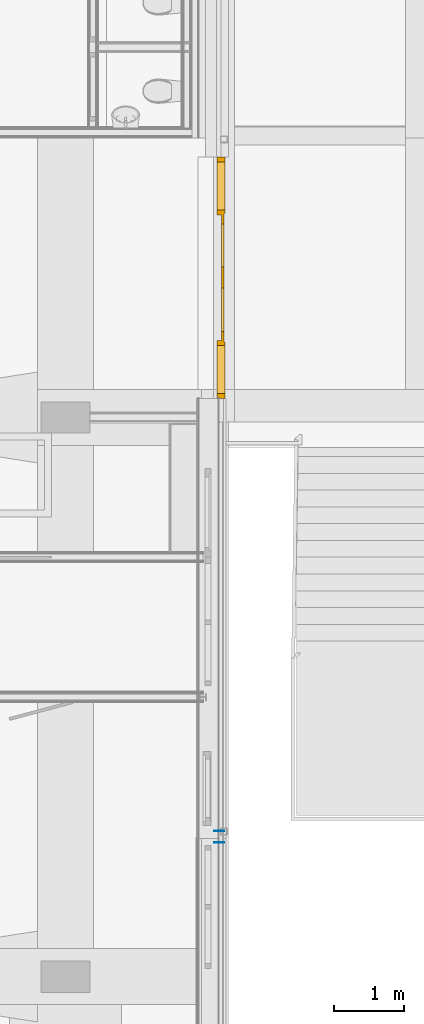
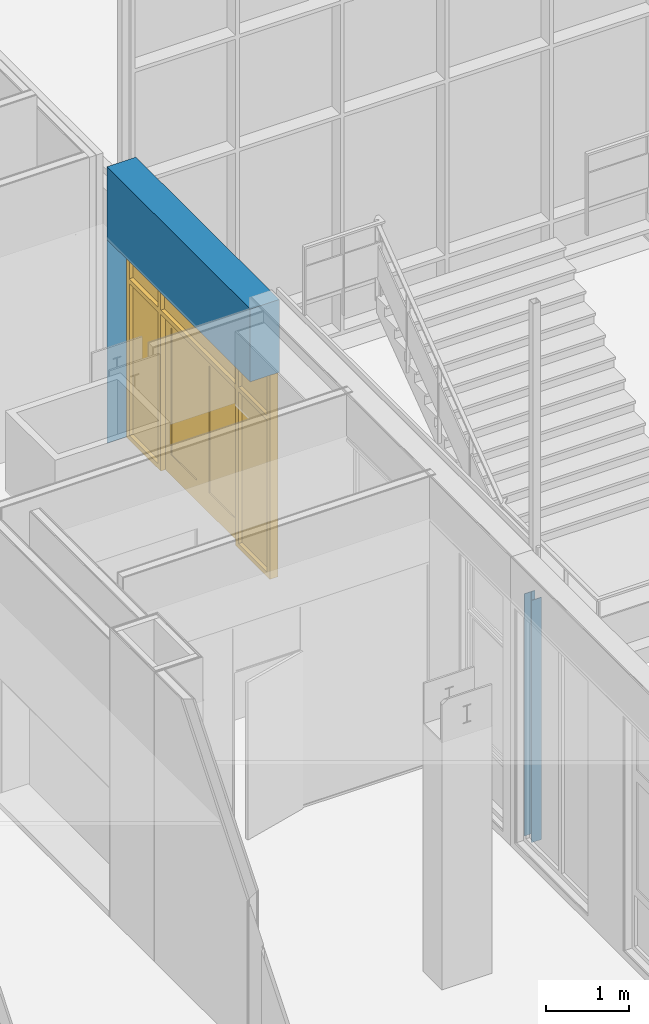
# One storey, part 23 of 94: 3 walls, 1 door, 1 opening.
"""IFC2X3 building model written with IfcOpenShell, lengths in millimetres."""

from ifc_helpers import new_model, entity, si_unit, converted_unit, derived_unit, money_unit, direction, frame, origin_with_axes, place, context, subcontext, project, spatial, open_shell, faceted_brep, surface_model, material, type_object, element, fill, save


model = new_model("IFC2X3")

# Units and contexts
model_context = context("Model", 3, precision=0.01, world=origin_with_axes(), true_north=direction((0.0, 1.0)))
body_context = subcontext(model_context, "Body", "Model", "MODEL_VIEW")
ifc_project = project(units=[si_unit("LENGTHUNIT", "METRE", prefix="MILLI"), si_unit("AREAUNIT", "SQUARE_METRE"), si_unit("VOLUMEUNIT", "CUBIC_METRE"), converted_unit("PLANEANGLEUNIT", "DEGREE", entity("IfcPlaneAngleMeasure", 0.0174532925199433), si_unit("PLANEANGLEUNIT", "RADIAN"), dimensions=[0, 0, 0, 0, 0, 0, 0]), money_unit("EUR"), converted_unit("TIMEUNIT", "Year", entity("IfcTimeMeasure", 31557600.0), si_unit("TIMEUNIT", "SECOND"), dimensions=[0, 0, 1, 0, 0, 0, 0]), si_unit("MASSUNIT", "GRAM", prefix="KILO"), si_unit("THERMODYNAMICTEMPERATUREUNIT", "DEGREE_CELSIUS"), si_unit("LUMINOUSINTENSITYUNIT", "LUMEN"), si_unit("ENERGYUNIT", "JOULE", prefix="MEGA"), derived_unit("THERMALCONDUCTANCEUNIT", [(si_unit("POWERUNIT", "WATT"), 1), (si_unit("LENGTHUNIT", "METRE"), -1), (si_unit("THERMODYNAMICTEMPERATUREUNIT", "KELVIN"), -1)]), derived_unit("SPECIFICHEATCAPACITYUNIT", [(si_unit("ENERGYUNIT", "JOULE"), 1), (si_unit("MASSUNIT", "GRAM", prefix="KILO"), -1), (si_unit("THERMODYNAMICTEMPERATUREUNIT", "KELVIN"), -1)]), derived_unit("MASSDENSITYUNIT", [(si_unit("MASSUNIT", "GRAM", prefix="KILO"), 1), (si_unit("VOLUMEUNIT", "CUBIC_METRE"), -1)])], contexts=[model_context])

# Site, building, storey
site_placement = place(None, origin_with_axes())
site = spatial("IfcSite", under=ifc_project, at=site_placement, Name="<site naam>", CompositionType="ELEMENT")
building_placement = place(site_placement, origin_with_axes())
building = spatial("IfcBuilding", under=site, at=building_placement, Name="<Naam gebouw>", CompositionType="ELEMENT")
storey_placement = place(building_placement, frame((0.0, 0.0, 4250.0), z_axis=(0.0, 0.0, 1.0), x_axis=(1.0, 0.0, 0.0)))
storey = spatial("IfcBuildingStorey", under=building, at=storey_placement, Name="01 1e verdieping", CompositionType="ELEMENT", Elevation=4250.0)

# Wall, opening, door
ifc_material_1 = material(Name="ALG - BUITENBLAD")
wall_type_1 = type_object("IfcWallType", Name="ALG - BUITENBLAD 404", PredefinedType="NOTDEFINED")
wall_1_placement = place(storey_placement, frame((4298.044439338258, 11725.39683091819, 0.0), z_axis=(0.0, 0.0, 1.0), x_axis=(0.0, -1.0, 0.0)))
wall_1 = element("IfcWall", 1, at=wall_1_placement, inside=storey, type_object=wall_type_1, material=ifc_material_1, Name="21_Binnenwand_ALG", context=body_context, shape_type="Brep", body=[
    faceted_brep([(0.0, 0.0, 3.000000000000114), (3450.234204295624, 0.0, 3.000000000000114), (3450.234204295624, -403.5000000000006, 3.000000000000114), (0.0, -403.5000000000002, 3.000000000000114), (3450.234204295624, 0.0, 4069.639117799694), (0.0, 0.0, 4069.639117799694), (3450.234204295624, -403.5000000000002, 4069.639117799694), (0.0, -403.4999999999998, 4069.639117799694)], [[[0, 1, 2, 3]], [[4, 1, 0, 5]], [[6, 2, 1, 4]], [[7, 3, 2, 6]], [[0, 3, 7, 5]], [[5, 7, 6, 4]]]),
])
opening_placement = place(wall_1_placement, frame((1725.234204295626, 0.0, 0.0), z_axis=(0.0, 0.0, 1.0), x_axis=(1.0, 0.0, 0.0)))
opening = element("IfcOpeningElement", 2, at=opening_placement, cuts=wall_1, Name="21_BI-D-06_305", context=body_context, shape_type="Brep", body=[
    faceted_brep([(-1724.999999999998, -17.99999999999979, 0.0), (-1724.999999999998, -17.99999999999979, 3000.0), (-1724.999999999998, 1.000000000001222, 3000.0), (-1724.999999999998, 1.000000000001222, 0.0), (-1724.999999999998, -404.5000000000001, 0.0), (-1724.999999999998, -404.5000000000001, 3000.0), (1724.999999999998, -18.00000000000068, 3000.0), (1724.999999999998, 1.000000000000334, 3000.0), (1724.999999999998, -404.5000000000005, 3000.0), (1724.999999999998, 1.000000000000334, 0.0), (1724.999999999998, -18.00000000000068, 0.0), (1724.999999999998, -404.500000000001, 0.0)], [[[0, 1, 2, 3]], [[1, 0, 4, 5]], [[6, 7, 2, 1, 5, 8]], [[7, 9, 3, 2]], [[0, 3, 9, 10, 11, 4]], [[5, 4, 11, 8]], [[6, 10, 9, 7]], [[10, 6, 8, 11]]]),
])
door_style = type_object("IfcDoorStyle", Name="D2 bl zl2 27", ConstructionType="NOTDEFINED", OperationType="USERDEFINED", ParameterTakesPrecedence=False, Sizeable=False)
door_placement = place(opening_placement, frame((-1724.999999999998, 0.0, 0.0), z_axis=(0.0, 0.0, 1.0), x_axis=(1.0, 0.0, 0.0)))
door = element("IfcDoor", 3, at=door_placement, inside=storey, type_object=door_style, Name="21_BI-D-06_305", ObjectType="DOOR", OverallHeight=3000.0, OverallWidth=3450.0, context=body_context, shape_type="SurfaceModel", body=[
    faceted_brep([(0.0, -18.00000000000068, 0.0), (67.00000000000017, -18.00000000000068, 0.0), (67.00000000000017, -132.0000000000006, 0.0), (0.0, -132.0000000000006, 0.0), (0.0, -17.99999999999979, 2933.0), (67.00000000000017, -17.99999999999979, 2933.0), (67.00000000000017, -17.99999999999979, 2367.0), (67.00000000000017, -17.99999999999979, 2300.0), (67.00000000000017, -18.00000000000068, 67.00000000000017), (67.00000000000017, -132.0000000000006, 67.00000000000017), (67.00000000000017, -132.0000000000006, 2300.0), (67.00000000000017, -132.0000000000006, 2367.0), (67.00000000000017, -132.0000000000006, 2933.0), (0.0, -132.0000000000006, 2933.0)], [[[0, 1, 2, 3]], [[0, 4, 5, 6, 7, 8, 1]], [[1, 8, 9, 2]], [[3, 2, 9, 10, 11, 12, 13]], [[4, 0, 3, 13]], [[5, 4, 13, 12]], [[6, 5, 12, 11]], [[7, 6, 11, 10]], [[8, 7, 10, 9]]]),
    faceted_brep([(824.9999999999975, -68.00000000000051, 2317.0), (824.9999999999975, -18.00000000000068, 2317.0), (824.9999999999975, -18.00000000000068, 2367.0), (824.9999999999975, -132.0000000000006, 2367.0), (824.9999999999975, -132.0000000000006, 2300.0), (824.9999999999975, -68.00000000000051, 2300.0), (807.9999999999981, -68.00000000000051, 2317.0), (807.9999999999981, -18.00000000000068, 2317.0), (807.9999999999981, -18.00000000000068, 0.0), (757.9999999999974, -18.00000000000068, 0.0), (757.9999999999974, -18.00000000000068, 67.00000000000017), (757.9999999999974, -18.00000000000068, 2300.0), (757.9999999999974, -18.00000000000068, 2367.0), (757.9999999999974, -18.00000000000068, 2933.0), (824.9999999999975, -18.00000000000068, 2933.0), (824.9999999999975, -132.0000000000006, 2933.0), (757.9999999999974, -132.0000000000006, 2933.0), (757.9999999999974, -132.0000000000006, 2367.0), (757.9999999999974, -132.0000000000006, 2300.0), (757.9999999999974, -132.0000000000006, 67.00000000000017), (757.9999999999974, -132.0000000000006, 0.0), (824.9999999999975, -132.0000000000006, 0.0), (824.9999999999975, -68.00000000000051, 0.0), (807.9999999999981, -68.00000000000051, 0.0)], [[[0, 1, 2, 3, 4, 5]], [[1, 0, 6, 7]], [[7, 8, 9, 10, 11, 12, 13, 14, 2, 1]], [[14, 15, 3, 2]], [[4, 3, 15, 16, 17, 18, 19, 20, 21]], [[22, 5, 4, 21]], [[0, 5, 22, 23, 6]], [[8, 7, 6, 23]], [[23, 22, 21, 20, 9, 8]], [[9, 20, 19, 10]], [[10, 19, 18, 11]], [[11, 18, 17, 12]], [[12, 17, 16, 13]], [[13, 16, 15, 14]]]),
    faceted_brep([(67.00000000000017, -18.00000000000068, 67.00000000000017), (67.00000000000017, -18.00000000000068, 0.0), (67.00000000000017, -132.0000000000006, 0.0), (67.00000000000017, -132.0000000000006, 67.00000000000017), (757.9999999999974, -18.00000000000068, 67.00000000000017), (757.9999999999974, -18.00000000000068, 0.0), (757.9999999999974, -132.0000000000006, 0.0), (757.9999999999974, -132.0000000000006, 67.00000000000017)], [[[0, 1, 2, 3]], [[0, 4, 5, 1]], [[1, 5, 6, 2]], [[3, 2, 6, 7]], [[4, 0, 3, 7]], [[5, 4, 7, 6]]]),
    faceted_brep([(3449.999999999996, -18.00000000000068, 0.0), (3449.999999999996, -18.00000000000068, 2933.0), (3449.999999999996, -132.0000000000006, 2933.0), (3449.999999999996, -132.0000000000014, 0.0), (3382.999999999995, -18.00000000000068, 0.0), (3382.999999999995, -18.00000000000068, 67.00000000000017), (3382.999999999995, -18.00000000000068, 2300.0), (3382.999999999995, -18.00000000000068, 2367.0), (3382.999999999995, -18.00000000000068, 2933.0), (3382.999999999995, -132.0000000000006, 2933.0), (3382.999999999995, -132.0000000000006, 2367.0), (3382.999999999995, -132.0000000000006, 2300.0), (3382.999999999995, -132.0000000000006, 67.00000000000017), (3382.999999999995, -132.0000000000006, 0.0)], [[[0, 1, 2, 3]], [[0, 4, 5, 6, 7, 8, 1]], [[1, 8, 9, 2]], [[3, 2, 9, 10, 11, 12, 13]], [[4, 0, 3, 13]], [[5, 4, 13, 12]], [[6, 5, 12, 11]], [[7, 6, 11, 10]], [[8, 7, 10, 9]]]),
    faceted_brep([(2641.999999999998, -18.00000000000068, 2317.0), (2624.999999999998, -18.00000000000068, 2317.0), (2624.999999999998, -18.00000000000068, 2367.0), (2624.999999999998, -18.00000000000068, 2933.0), (2691.999999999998, -18.00000000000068, 2933.0), (2691.999999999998, -18.00000000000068, 2367.0), (2691.999999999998, -18.00000000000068, 2300.0), (2691.999999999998, -18.00000000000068, 67.00000000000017), (2691.999999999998, -18.00000000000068, 0.0), (2641.999999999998, -18.00000000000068, 0.0), (2641.999999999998, -68.00000000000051, 2317.0), (2624.999999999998, -68.00000000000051, 2317.0), (2624.999999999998, -68.00000000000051, 2300.0), (2624.999999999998, -132.0000000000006, 2300.0), (2624.999999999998, -132.0000000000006, 2367.0), (2624.999999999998, -132.0000000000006, 2933.0), (2691.999999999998, -132.0000000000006, 2933.0), (2691.999999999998, -132.0000000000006, 2367.0), (2691.999999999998, -132.0000000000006, 2300.0), (2691.999999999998, -132.0000000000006, 67.00000000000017), (2691.999999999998, -132.0000000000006, 0.0), (2641.999999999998, -68.00000000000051, 0.0), (2624.999999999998, -132.0000000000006, 0.0), (2624.999999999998, -68.00000000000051, 0.0)], [[[0, 1, 2, 3, 4, 5, 6, 7, 8, 9]], [[1, 0, 10, 11]], [[11, 12, 13, 14, 2, 1]], [[2, 14, 15, 3]], [[3, 15, 16, 4]], [[4, 16, 17, 5]], [[5, 17, 18, 6]], [[6, 18, 19, 7]], [[7, 19, 20, 8]], [[21, 9, 8, 20, 22, 23]], [[0, 9, 21, 10]], [[21, 23, 12, 11, 10]], [[12, 23, 22, 13]], [[19, 18, 17, 16, 15, 14, 13, 22, 20]]]),
    faceted_brep([(2691.999999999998, -18.00000000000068, 67.00000000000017), (2691.999999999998, -18.00000000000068, 0.0), (2691.999999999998, -132.0000000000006, 0.0), (2691.999999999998, -132.0000000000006, 67.00000000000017), (3382.999999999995, -18.00000000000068, 67.00000000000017), (3382.999999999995, -18.00000000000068, 0.0), (3382.999999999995, -132.0000000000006, 0.0), (3382.999999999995, -132.0000000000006, 67.00000000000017)], [[[0, 1, 2, 3]], [[0, 4, 5, 1]], [[1, 5, 6, 2]], [[3, 2, 6, 7]], [[4, 0, 3, 7]], [[5, 4, 7, 6]]]),
    faceted_brep([(0.0, -17.99999999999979, 3000.0), (0.0, -17.99999999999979, 2933.0), (0.0, -132.0000000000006, 2933.0), (0.0, -132.0000000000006, 3000.0), (3449.999999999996, -18.00000000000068, 3000.0), (3449.999999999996, -18.00000000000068, 2933.0), (3382.999999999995, -18.00000000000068, 2933.0), (2691.999999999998, -18.00000000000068, 2933.0), (2624.999999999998, -18.00000000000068, 2933.0), (824.9999999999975, -18.00000000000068, 2933.0), (757.9999999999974, -18.00000000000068, 2933.0), (67.00000000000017, -17.99999999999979, 2933.0), (67.00000000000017, -132.0000000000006, 2933.0), (757.9999999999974, -132.0000000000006, 2933.0), (824.9999999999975, -132.0000000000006, 2933.0), (2624.999999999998, -132.0000000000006, 2933.0), (2691.999999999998, -132.0000000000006, 2933.0), (3382.999999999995, -132.0000000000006, 2933.0), (3449.999999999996, -132.0000000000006, 2933.0), (3449.999999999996, -132.0000000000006, 3000.0)], [[[0, 1, 2, 3]], [[0, 4, 5, 6, 7, 8, 9, 10, 11, 1]], [[1, 11, 12, 2]], [[3, 2, 12, 13, 14, 15, 16, 17, 18, 19]], [[4, 0, 3, 19]], [[5, 4, 19, 18]], [[6, 5, 18, 17]], [[7, 6, 17, 16]], [[8, 7, 16, 15]], [[9, 8, 15, 14]], [[10, 9, 14, 13]], [[11, 10, 13, 12]]]),
    faceted_brep([(67.00000000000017, -17.99999999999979, 2300.0), (757.9999999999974, -18.00000000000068, 2300.0), (757.9999999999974, -132.0000000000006, 2300.0), (67.00000000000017, -132.0000000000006, 2300.0), (67.00000000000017, -17.99999999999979, 2367.0), (757.9999999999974, -18.00000000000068, 2367.0), (757.9999999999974, -132.0000000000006, 2367.0), (67.00000000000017, -132.0000000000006, 2367.0)], [[[0, 1, 2, 3]], [[0, 4, 5, 1]], [[1, 5, 6, 2]], [[3, 2, 6, 7]], [[4, 0, 3, 7]], [[5, 4, 7, 6]]]),
    faceted_brep([(3382.999999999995, -18.00000000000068, 2367.0), (2691.999999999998, -18.00000000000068, 2367.0), (2691.999999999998, -132.0000000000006, 2367.0), (3382.999999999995, -132.0000000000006, 2367.0), (3382.999999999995, -18.00000000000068, 2300.0), (2691.999999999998, -18.00000000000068, 2300.0), (2691.999999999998, -132.0000000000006, 2300.0), (3382.999999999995, -132.0000000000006, 2300.0)], [[[0, 1, 2, 3]], [[0, 4, 5, 1]], [[1, 5, 6, 2]], [[3, 2, 6, 7]], [[4, 0, 3, 7]], [[5, 4, 7, 6]]]),
    faceted_brep([(2624.999999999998, -68.00000000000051, 2317.0), (2624.999999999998, -18.00000000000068, 2317.0), (2624.999999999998, -18.00000000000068, 2367.0), (2624.999999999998, -132.0000000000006, 2367.0), (2624.999999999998, -132.0000000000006, 2300.0), (2624.999999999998, -68.00000000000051, 2300.0), (824.9999999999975, -68.00000000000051, 2317.0), (824.9999999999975, -18.00000000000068, 2317.0), (824.9999999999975, -18.00000000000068, 2367.0), (824.9999999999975, -132.0000000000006, 2367.0), (824.9999999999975, -132.0000000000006, 2300.0), (824.9999999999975, -68.00000000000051, 2300.0)], [[[0, 1, 2, 3, 4, 5]], [[1, 0, 6, 7]], [[1, 7, 8, 2]], [[8, 9, 3, 2]], [[10, 4, 3, 9]], [[11, 5, 4, 10]], [[0, 5, 11, 6]], [[6, 11, 10, 9, 8, 7]]]),
    faceted_brep([(2641.999999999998, -28.00000000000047, 299.9999999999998), (2641.999999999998, -68.00000000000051, 299.9999999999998), (2491.999999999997, -68.00000000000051, 299.9999999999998), (2491.999999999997, -28.00000000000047, 299.9999999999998), (2641.999999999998, -28.00000000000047, 2167.0), (2641.999999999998, -68.00000000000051, 2167.0), (2491.999999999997, -68.00000000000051, 2167.0), (2491.999999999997, -28.00000000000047, 2167.0)], [[[0, 1, 2, 3]], [[4, 5, 1, 0]], [[1, 5, 6, 2]], [[3, 2, 6, 7]], [[0, 3, 7, 4]], [[7, 6, 5, 4]]]),
    faceted_brep([(1724.999999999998, -28.00000000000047, 299.9999999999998), (1724.999999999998, -68.00000000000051, 299.9999999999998), (1724.999999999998, -68.00000000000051, 2167.0), (1724.999999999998, -28.00000000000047, 2167.0), (1874.999999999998, -28.00000000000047, 299.9999999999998), (1874.999999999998, -68.00000000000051, 299.9999999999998), (1874.999999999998, -68.00000000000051, 2167.0), (1874.999999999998, -28.00000000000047, 2167.0)], [[[0, 1, 2, 3]], [[4, 5, 1, 0]], [[1, 5, 6, 2]], [[3, 2, 6, 7]], [[0, 3, 7, 4]], [[7, 6, 5, 4]]]),
    faceted_brep([(2641.999999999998, -28.00000000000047, 0.0), (2641.999999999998, -68.00000000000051, 0.0), (1724.999999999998, -68.00000000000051, 0.0), (1724.999999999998, -28.00000000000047, 0.0), (2641.999999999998, -28.00000000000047, 299.9999999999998), (2641.999999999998, -68.00000000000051, 299.9999999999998), (2491.999999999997, -68.00000000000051, 299.9999999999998), (1874.999999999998, -68.00000000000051, 299.9999999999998), (1724.999999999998, -68.00000000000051, 299.9999999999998), (1724.999999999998, -28.00000000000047, 299.9999999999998), (1874.999999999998, -28.00000000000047, 299.9999999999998), (2491.999999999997, -28.00000000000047, 299.9999999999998)], [[[0, 1, 2, 3]], [[4, 5, 1, 0]], [[1, 5, 6, 7, 8, 2]], [[3, 2, 8, 9]], [[0, 3, 9, 10, 11, 4]], [[11, 6, 5, 4]], [[10, 7, 6, 11]], [[9, 8, 7, 10]]]),
    faceted_brep([(2641.999999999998, -28.00000000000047, 2317.0), (2641.999999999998, -68.00000000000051, 2317.0), (2641.999999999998, -68.00000000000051, 2167.0), (2641.999999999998, -28.00000000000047, 2167.0), (1724.999999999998, -28.00000000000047, 2317.0), (1724.999999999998, -68.00000000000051, 2317.0), (1724.999999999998, -68.00000000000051, 2167.0), (1874.999999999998, -68.00000000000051, 2167.0), (2491.999999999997, -68.00000000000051, 2167.0), (2491.999999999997, -28.00000000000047, 2167.0), (1874.999999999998, -28.00000000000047, 2167.0), (1724.999999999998, -28.00000000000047, 2167.0)], [[[0, 1, 2, 3]], [[4, 5, 1, 0]], [[1, 5, 6, 7, 8, 2]], [[3, 2, 8, 9]], [[0, 3, 9, 10, 11, 4]], [[11, 6, 5, 4]], [[10, 7, 6, 11]], [[9, 8, 7, 10]]]),
    surface_model("IfcShellBasedSurfaceModel", [(2491.999999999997, -42.0000000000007, 299.9999999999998), (1874.999999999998, -42.0000000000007, 299.9999999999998), (1874.999999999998, -42.0000000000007, 2167.0), (2491.999999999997, -42.0000000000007, 2167.0)], [open_shell([[[0, 1, 2, 3]]])]),
    surface_model("IfcShellBasedSurfaceModel", [(2491.999999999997, -54.00000000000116, 299.9999999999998), (2491.999999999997, -54.00000000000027, 2167.0), (1874.999999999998, -54.00000000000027, 2167.0), (1874.999999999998, -54.00000000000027, 299.9999999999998)], [open_shell([[[0, 1, 2, 3]]])]),
    faceted_brep([(807.9999999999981, -28.00000000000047, 299.9999999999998), (957.9999999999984, -28.00000000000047, 299.9999999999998), (957.9999999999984, -68.00000000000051, 299.9999999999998), (807.9999999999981, -68.00000000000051, 299.9999999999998), (807.9999999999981, -28.00000000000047, 2167.0), (957.9999999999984, -28.00000000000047, 2167.0), (957.9999999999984, -68.00000000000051, 2167.0), (807.9999999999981, -68.00000000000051, 2167.0)], [[[0, 1, 2, 3]], [[0, 4, 5, 1]], [[1, 5, 6, 2]], [[3, 2, 6, 7]], [[4, 0, 3, 7]], [[5, 4, 7, 6]]]),
    faceted_brep([(1724.999999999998, -28.00000000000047, 299.9999999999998), (1724.999999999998, -28.00000000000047, 2167.0), (1724.999999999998, -68.00000000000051, 2167.0), (1724.999999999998, -68.00000000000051, 299.9999999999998), (1574.999999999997, -28.00000000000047, 299.9999999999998), (1574.999999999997, -28.00000000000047, 2167.0), (1574.999999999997, -68.00000000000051, 2167.0), (1574.999999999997, -68.00000000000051, 299.9999999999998)], [[[0, 1, 2, 3]], [[0, 4, 5, 1]], [[1, 5, 6, 2]], [[3, 2, 6, 7]], [[4, 0, 3, 7]], [[5, 4, 7, 6]]]),
    faceted_brep([(807.9999999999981, -28.00000000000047, 0.0), (1724.999999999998, -28.00000000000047, 0.0), (1724.999999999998, -68.00000000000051, 0.0), (807.9999999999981, -68.00000000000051, 0.0), (807.9999999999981, -28.00000000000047, 299.9999999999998), (957.9999999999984, -28.00000000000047, 299.9999999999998), (1574.999999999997, -28.00000000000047, 299.9999999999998), (1724.999999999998, -28.00000000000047, 299.9999999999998), (1724.999999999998, -68.00000000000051, 299.9999999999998), (1574.999999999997, -68.00000000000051, 299.9999999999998), (957.9999999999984, -68.00000000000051, 299.9999999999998), (807.9999999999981, -68.00000000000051, 299.9999999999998)], [[[0, 1, 2, 3]], [[0, 4, 5, 6, 7, 1]], [[1, 7, 8, 2]], [[3, 2, 8, 9, 10, 11]], [[4, 0, 3, 11]], [[5, 4, 11, 10]], [[6, 5, 10, 9]], [[7, 6, 9, 8]]]),
    faceted_brep([(807.9999999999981, -28.00000000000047, 2317.0), (807.9999999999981, -28.00000000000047, 2167.0), (807.9999999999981, -68.00000000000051, 2167.0), (807.9999999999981, -68.00000000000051, 2317.0), (1724.999999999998, -28.00000000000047, 2317.0), (1724.999999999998, -28.00000000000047, 2167.0), (1574.999999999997, -28.00000000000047, 2167.0), (957.9999999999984, -28.00000000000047, 2167.0), (957.9999999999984, -68.00000000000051, 2167.0), (1574.999999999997, -68.00000000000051, 2167.0), (1724.999999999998, -68.00000000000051, 2167.0), (1724.999999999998, -68.00000000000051, 2317.0)], [[[0, 1, 2, 3]], [[0, 4, 5, 6, 7, 1]], [[1, 7, 8, 2]], [[3, 2, 8, 9, 10, 11]], [[4, 0, 3, 11]], [[5, 4, 11, 10]], [[6, 5, 10, 9]], [[7, 6, 9, 8]]]),
    surface_model("IfcShellBasedSurfaceModel", [(957.9999999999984, -42.0000000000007, 299.9999999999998), (957.9999999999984, -42.0000000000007, 2167.0), (1574.999999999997, -42.0000000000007, 2167.0), (1574.999999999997, -42.0000000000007, 299.9999999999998)], [open_shell([[[0, 1, 2, 3]]])]),
    surface_model("IfcShellBasedSurfaceModel", [(957.9999999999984, -54.00000000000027, 299.9999999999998), (1574.999999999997, -54.00000000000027, 299.9999999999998), (1574.999999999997, -54.00000000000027, 2167.0), (957.9999999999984, -54.00000000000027, 2167.0)], [open_shell([[[0, 1, 2, 3]]])]),
    surface_model("IfcShellBasedSurfaceModel", [(67.00000000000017, -78.00000000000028, 2367.0), (757.9999999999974, -78.00000000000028, 2367.0), (757.9999999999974, -78.00000000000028, 2933.0), (67.00000000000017, -78.00000000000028, 2933.0)], [open_shell([[[0, 1, 2, 3]]])]),
    surface_model("IfcShellBasedSurfaceModel", [(67.00000000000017, -65.99999999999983, 2367.0), (67.00000000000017, -65.99999999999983, 2933.0), (757.9999999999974, -66.00000000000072, 2933.0), (757.9999999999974, -66.00000000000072, 2367.0)], [open_shell([[[0, 1, 2, 3]]])]),
    surface_model("IfcShellBasedSurfaceModel", [(824.9999999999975, -78.00000000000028, 2367.0), (2624.999999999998, -78.00000000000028, 2367.0), (2624.999999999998, -78.00000000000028, 2933.0), (824.9999999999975, -78.00000000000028, 2933.0)], [open_shell([[[0, 1, 2, 3]]])]),
    surface_model("IfcShellBasedSurfaceModel", [(824.9999999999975, -66.00000000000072, 2367.0), (824.9999999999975, -66.00000000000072, 2933.0), (2624.999999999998, -66.00000000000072, 2933.0), (2624.999999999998, -66.00000000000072, 2367.0)], [open_shell([[[0, 1, 2, 3]]])]),
    surface_model("IfcShellBasedSurfaceModel", [(2691.999999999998, -78.00000000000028, 2367.0), (3382.999999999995, -78.00000000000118, 2367.0), (3382.999999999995, -78.00000000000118, 2933.0), (2691.999999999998, -78.00000000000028, 2933.0)], [open_shell([[[0, 1, 2, 3]]])]),
    surface_model("IfcShellBasedSurfaceModel", [(2691.999999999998, -66.00000000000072, 2367.0), (2691.999999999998, -66.00000000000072, 2933.0), (3382.999999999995, -66.00000000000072, 2933.0), (3382.999999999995, -66.00000000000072, 2367.0)], [open_shell([[[0, 1, 2, 3]]])]),
    surface_model("IfcShellBasedSurfaceModel", [(67.00000000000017, -78.00000000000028, 67.00000000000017), (757.9999999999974, -78.00000000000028, 67.00000000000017), (757.9999999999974, -78.00000000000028, 2300.000000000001), (67.00000000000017, -78.00000000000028, 2300.000000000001)], [open_shell([[[0, 1, 2, 3]]])]),
    surface_model("IfcShellBasedSurfaceModel", [(67.00000000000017, -66.00000000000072, 67.00000000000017), (67.00000000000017, -65.99999999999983, 2300.000000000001), (757.9999999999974, -66.00000000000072, 2300.000000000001), (757.9999999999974, -66.00000000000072, 67.00000000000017)], [open_shell([[[0, 1, 2, 3]]])]),
    surface_model("IfcShellBasedSurfaceModel", [(2691.999999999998, -78.00000000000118, 67.00000000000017), (3382.999999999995, -78.00000000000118, 67.00000000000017), (3382.999999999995, -78.00000000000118, 2300.000000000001), (2691.999999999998, -78.00000000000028, 2300.000000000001)], [open_shell([[[0, 1, 2, 3]]])]),
    surface_model("IfcShellBasedSurfaceModel", [(2691.999999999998, -66.00000000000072, 67.00000000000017), (2691.999999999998, -66.00000000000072, 2300.000000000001), (3382.999999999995, -66.00000000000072, 2300.000000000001), (3382.999999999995, -66.00000000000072, 67.00000000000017)], [open_shell([[[0, 1, 2, 3]]])]),
])
fill(opening, door)

# Walls
ifc_material_2 = material(Name="metaal - Aluminium RAL8000")
wall_type_2 = type_object("IfcWallType", Name="metaal - Aluminium RAL8000 10", PredefinedType="NOTDEFINED")
wall_2_placement = place(storey_placement, frame((4130.044465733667, 1923.032739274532, 0.0), z_axis=(0.0, 0.0, 1.0), x_axis=(1.0, 0.0, 0.0)))
element("IfcWall", 4, at=wall_2_placement, inside=storey, type_object=wall_type_2, material=ifc_material_2, Name="41_Binnenwand_metaal", context=body_context, shape_type="Brep", body=[
    faceted_brep([(0.0, -9.999999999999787, 3560.000000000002), (143.0921303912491, -9.999999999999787, 3560.000000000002), (143.0921303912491, 0.0, 3560.000000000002), (0.0, 0.0, 3560.000000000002), (0.0, -10.00000000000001, 0.0), (143.0921303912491, -10.00000000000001, 0.0), (143.0921303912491, 0.0, 0.0), (0.0, 0.0, 0.0)], [[[0, 1, 2, 3]], [[4, 5, 1, 0]], [[2, 1, 5, 6]], [[3, 2, 6, 7]], [[4, 0, 3, 7]], [[7, 6, 5, 4]]]),
])
wall_3_placement = place(storey_placement, frame((4130.044465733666, 2077.03273927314, 0.0), z_axis=(0.0, 0.0, 1.0), x_axis=(1.0, 0.0, 0.0)))
element("IfcWall", 5, at=wall_3_placement, inside=storey, type_object=wall_type_2, material=ifc_material_2, Name="41_Binnenwand_metaal", context=body_context, shape_type="Brep", body=[
    faceted_brep([(0.0, 0.0, 3560.000000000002), (89.95569122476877, 0.0, 3560.000000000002), (89.95569122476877, 10.00000000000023, 3560.000000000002), (0.0, 10.00000000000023, 3560.000000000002), (0.0, 0.0, 0.0), (89.95569122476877, 0.0, 0.0), (89.95569122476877, 9.999999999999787, 0.0), (0.0, 9.999999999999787, 0.0)], [[[0, 1, 2, 3]], [[4, 5, 1, 0]], [[5, 6, 2, 1]], [[3, 2, 6, 7]], [[0, 3, 7, 4]], [[7, 6, 5, 4]]]),
    faceted_brep([(143.0921303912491, 9.999999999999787, 0.0), (97.95569130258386, 9.999999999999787, 0.0), (97.95569130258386, 10.00000000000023, 3560.000000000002), (143.0921303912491, 10.00000000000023, 3560.000000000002), (143.0921303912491, 0.0, 0.0), (97.95569130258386, 0.0, 0.0), (97.95569130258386, 0.0, 3560.000000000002), (143.0921303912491, 0.0, 3560.000000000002)], [[[0, 1, 2, 3]], [[4, 5, 1, 0]], [[5, 6, 2, 1]], [[3, 2, 6, 7]], [[7, 4, 0, 3]], [[7, 6, 5, 4]]]),
])

save(model, "model.ifc")
